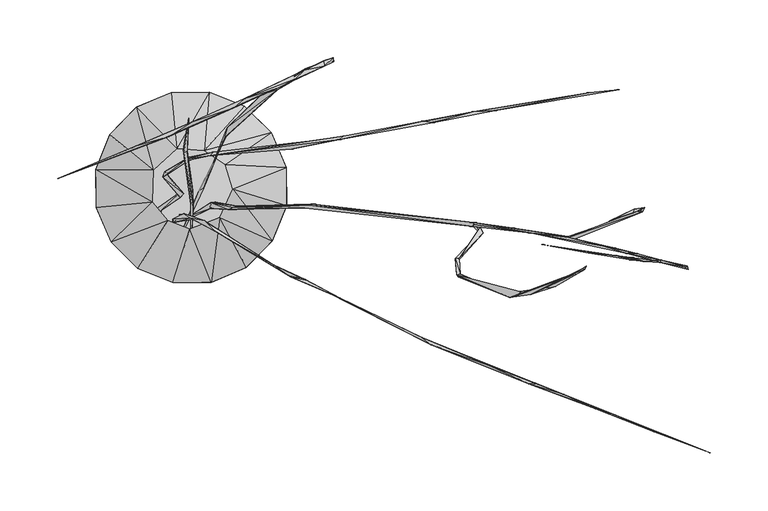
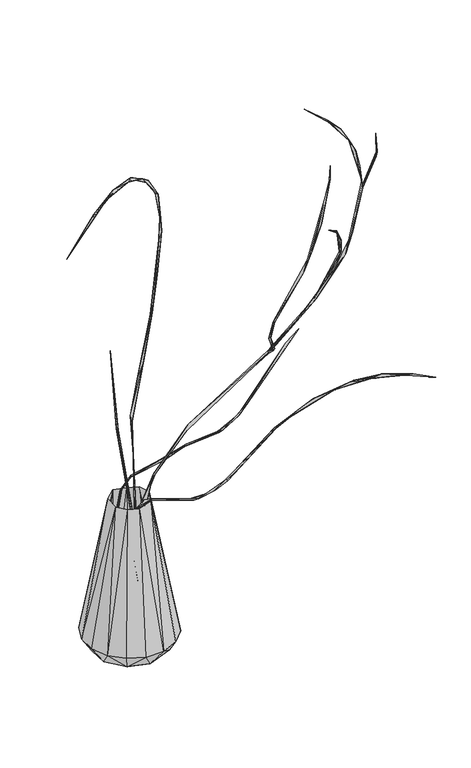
"""IFC4 building model written with IfcOpenShell, lengths in millimetres: geographic element geometry, Enscape AssetDefinition - Vase 002 Eucalyptus : Enscape AssetDefinition - Vase 002 Eucalyptus 2."""

import ifcopenshell
import ifcopenshell.guid

model = None  # the IFC model being written
_history = None  # IfcOwnerHistory: only IFC2X3 demands one
_inside = {}  # id of a spatial element -> (the spatial element, [elements in it])
_under = {}  # id of a project, library or spatial element -> (it, [spatial elements below it])
_declared = {}  # id of a project -> (the project, [libraries it declares])
_typed = {}  # id of a type object -> (the type object, [elements of that type])
_made_of = {}  # id of a material, layer set ... -> (it, [elements and type objects made of it])


def new_model(schema):
    """Start an empty IFC model of exactly this schema.

    Asked for "IFC4X3", IfcOpenShell would pick the latest addendum, in which some entities
    have other attributes; the version numbers below select the first issue.
    IFC2X3 requires an IfcOwnerHistory on every rooted entity: one is made here for all.
    """
    global model, _history
    if schema == "IFC4X3":
        model = ifcopenshell.file(schema_version=(4, 3, 0, 0))
    else:
        model = ifcopenshell.file(schema=schema)
    _inside.clear()
    _under.clear()
    _declared.clear()
    _typed.clear()
    _made_of.clear()
    _history = None
    if model.schema == "IFC2X3":
        org = make("IfcOrganization", Name="unknown")
        user = make(
            "IfcPersonAndOrganization",
            ThePerson=make("IfcPerson", FamilyName="unknown"),
            TheOrganization=org,
        )
        app = make(
            "IfcApplication",
            ApplicationDeveloper=org,
            Version="unknown",
            ApplicationFullName="unknown",
            ApplicationIdentifier="unknown",
        )
        _history = make(
            "IfcOwnerHistory",
            OwningUser=user,
            OwningApplication=app,
            ChangeAction="ADDED",
            CreationDate=0,
        )
    return model


def make(cls, **values):
    """One entity of the class cls with the attributes given. An attribute that is None is left unset."""
    return model.create_entity(
        cls, **{name: value for name, value in values.items() if value is not None}
    )


def rooted(cls, **values):
    """An entity with a GlobalId (a new one), such as an element, a storey or a relation."""
    return make(cls, GlobalId=ifcopenshell.guid.new(), OwnerHistory=_history, **values)


def si_unit(unit_type, name, prefix=None):
    """IfcSIUnit, for example si_unit("LENGTHUNIT", "METRE", prefix="MILLI")."""
    return make("IfcSIUnit", UnitType=unit_type, Prefix=prefix, Name=name)


def assignment(units):
    """IfcUnitAssignment: the units of a project."""
    return None if units is None else make("IfcUnitAssignment", Units=units)


def point(xyz):
    """IfcCartesianPoint."""
    return None if xyz is None else make("IfcCartesianPoint", Coordinates=xyz)


def direction(xyz):
    """IfcDirection."""
    return None if xyz is None else make("IfcDirection", DirectionRatios=xyz)


def frame(location, z_axis=None, x_axis=None):
    """IfcAxis2Placement3D, a coordinate frame: its origin and axes. An axis left out is left unset."""
    return make(
        "IfcAxis2Placement3D",
        Location=point(location),
        Axis=direction(z_axis),
        RefDirection=direction(x_axis),
    )


def origin():
    """The frame at (0, 0, 0) with its axes left unset."""
    return frame((0.0, 0.0, 0.0))


def place(relative_to, where):
    """IfcLocalPlacement: puts the frame where relative to a parent placement (None: the world)."""
    return make(
        "IfcLocalPlacement", PlacementRelTo=relative_to, RelativePlacement=where
    )


def context(
    kind, dimensions, precision=None, world=None, true_north=None, identifier=None
):
    """IfcGeometricRepresentationContext, for example the 3D "Model" context."""
    return make(
        "IfcGeometricRepresentationContext",
        ContextIdentifier=identifier,
        ContextType=kind,
        CoordinateSpaceDimension=dimensions,
        Precision=precision,
        WorldCoordinateSystem=world,
        TrueNorth=true_north,
    )


def project(units=None, contexts=None):
    """IfcProject with its units and contexts."""
    return rooted(
        "IfcProject",
        Name="project",
        RepresentationContexts=contexts,
        UnitsInContext=assignment(units),
    )


def spatial(cls, under=None, at=None, **own):
    """A site, building, storey or space (cls), placed at a placement, below another one or the project."""
    s = rooted(cls, ObjectPlacement=at, **own)
    if under is not None:
        _under.setdefault(under.id(), (under, []))[1].append(s)
    return s


def point_list(points):
    """IfcCartesianPointList2D or 3D."""
    cls = (
        "IfcCartesianPointList2D" if len(points[0]) == 2 else "IfcCartesianPointList3D"
    )
    return make(cls, CoordList=points)


def triangles(points, corners, closed=None, point_numbers=None):
    """IfcTriangulatedFaceSet: each triangle names its three corners, points numbered from 1."""
    return make(
        "IfcTriangulatedFaceSet",
        Coordinates=point_list(points),
        Closed=closed,
        CoordIndex=corners,
        PnIndex=point_numbers,
    )


def shape(context_of_items, identifier, shape_type, items):
    """IfcShapeRepresentation: the items that make up one representation, for example the "Body"."""
    return make(
        "IfcShapeRepresentation",
        ContextOfItems=context_of_items,
        RepresentationIdentifier=identifier,
        RepresentationType=shape_type,
        Items=items,
    )


def source(mapping_origin, context_of_items, identifier, shape_type, items):
    """IfcRepresentationMap: a shape defined once, which mapped items show again and again."""
    return make(
        "IfcRepresentationMap",
        MappingOrigin=mapping_origin,
        MappedRepresentation=shape(context_of_items, identifier, shape_type, items),
    )


def transform(
    local_origin,
    x_axis=None,
    y_axis=None,
    z_axis=None,
    scale=None,
    scale2=None,
    scale3=None,
    uniform=True,
):
    """IfcCartesianTransformationOperator3D, or its non-uniform kind. x_axis, y_axis, z_axis: its Axis1, 2, 3."""
    if uniform:
        return make(
            "IfcCartesianTransformationOperator3D",
            Axis1=direction(x_axis),
            Axis2=direction(y_axis),
            LocalOrigin=point(local_origin),
            Scale=scale,
            Axis3=direction(z_axis),
        )
    return make(
        "IfcCartesianTransformationOperator3DnonUniform",
        Axis1=direction(x_axis),
        Axis2=direction(y_axis),
        LocalOrigin=point(local_origin),
        Scale=scale,
        Axis3=direction(z_axis),
        Scale2=scale2,
        Scale3=scale3,
    )


def mapped(mapping_source, mapping_target):
    """IfcMappedItem: shows the shape of a source again, moved by a transform."""
    return make(
        "IfcMappedItem", MappingSource=mapping_source, MappingTarget=mapping_target
    )


def made_of(thing, what):
    """Note that an element or type object is made of a material, layer set ...; save() writes the relation."""
    if what is not None:
        _made_of.setdefault(what.id(), (what, []))[1].append(thing)
    return thing


def element(
    cls,
    number,
    at=None,
    inside=None,
    cuts=None,
    type_object=None,
    material=None,
    context=None,
    identifier="Body",
    shape_type=None,
    held_by="IfcProductDefinitionShape",
    body=None,
    shapes=None,
    **own,
):
    """One element of the class cls, such as IfcWall. Its Tag is "e" and its number.

    at: its placement. inside: the storey or other place that contains it. cuts: it is an
    opening in that element (IfcRelVoidsElement). A single representation is given by context,
    identifier, shape_type and body (its items); several are given by shapes. held_by: the class
    of the entity that holds the representations. save() writes the other relations.
    """
    e = rooted(cls, Tag="e%d" % number, ObjectPlacement=at, **own)
    if body is not None:
        shapes = [shape(context, identifier, shape_type, body)]
    if shapes is not None:
        e.Representation = make(held_by, Representations=shapes)
    if inside is not None:
        _inside.setdefault(inside.id(), (inside, []))[1].append(e)
    if cuts is not None:
        rooted(
            "IfcRelVoidsElement", RelatingBuildingElement=cuts, RelatedOpeningElement=e
        )
    if type_object is not None:
        _typed.setdefault(type_object.id(), (type_object, []))[1].append(e)
    return made_of(e, material)


def aggregate(whole, parts):
    """IfcRelAggregates: a whole, such as a stair, and the parts it consists of."""
    return rooted("IfcRelAggregates", RelatingObject=whole, RelatedObjects=parts)


def save(model, path):
    """Write the relations noted so far, then the file.

    IfcRelAggregates (storeys below a building ...), IfcRelContainedInSpatialStructure (elements
    in a storey), IfcRelDefinesByType, IfcRelAssociatesMaterial and IfcRelDeclares: one each for
    every whole, place, type object, material and project.
    """
    for whole, parts in _under.values():
        aggregate(whole, parts)
    for where, things in _inside.values():
        rooted(
            "IfcRelContainedInSpatialStructure",
            RelatedElements=things,
            RelatingStructure=where,
        )
    for kind, things in _typed.values():
        rooted("IfcRelDefinesByType", RelatedObjects=things, RelatingType=kind)
    for what, things in _made_of.values():
        rooted("IfcRelAssociatesMaterial", RelatedObjects=things, RelatingMaterial=what)
    for by, libraries in _declared.values():
        rooted("IfcRelDeclares", RelatingContext=by, RelatedDefinitions=libraries)
    model.write(path)


def geographic_element_e6de441b(model_context):
    return source(origin(), model_context, "Body", "Tessellation", [
        triangles([(45.9379527, 70.502201, 28.4633448), (82.3356357, 17.3695487, 28.4633244), (29.4713207, 19.692037, 293.433688), (69.4211578, 47.5558636, 28.4633244), (11.4691718, 31.81763, 290.3874531), (2.458065, 67.5167546, -0.2719074), (15.4611055, 82.7152273, 28.4633448), (-17.369434, 82.3356357, 28.4633244), (-12.6112726, 33.7478106, 293.418609), (-47.5557773, 69.4212032, 28.4633448), (-32.7808434, 14.9458389, 293.418609), (-65.2439918, 12.977912, -0.2055574), (-46.0034102, 49.4796924, -0.2719074), (-70.5021783, 45.9380208, 28.4633517), (-63.3180147, -23.5665848, -0.271925), (-33.7478629, -12.611343, 293.418609), (-82.7152273, 15.461177, 28.4633176), (-82.3356447, -17.3694964, 28.4633176), (-69.4212032, -47.5558227, 28.4633335), (-36.9577823, -55.3111815, -0.2055662), (49.5067937, 46.0286857, -0.2188257), (-15.8883834, -82.6219463, 27.978032), (-46.3444323, -70.2696162, 29.0888767), (-20.4746791, -28.691004, 293.3939738), (17.3695305, -82.3356447, 28.4633244), (-2.62e-05, -67.1548444, -0.2613593), (48.1170621, -48.1170621, -0.2874323), (-1.3988608, -36.0258488, 293.4225331), (47.5558591, -69.4211669, 28.4633062), (67.1548444, -8.7e-06, -0.2613506), (70.2696434, -46.3443823, 29.0888767), (82.6219463, -15.8883493, 27.978032), (24.7947756, -26.2062788, 293.4296003), (36.0257943, -1.3988783, 293.4225331), (71.7377224, -67.3135966, 306.3250886), (98.8175784, -79.9899849, 315.8699638), (86.3297959, -77.6303724, 308.6516544), (112.192189, -88.3435811, 322.9866443), (128.932855, -95.8627896, 343.8977589), (79.1504286, -72.6743386, 304.6508085), (2.2809597, -27.6333128, 289.753353), (19.3145755, -35.865046, 303.3832987), (-0.9242038, -26.4440572, 291.161988), (20.4029062, -37.8574685, 307.1708219), (11.4176727, -28.9996084, 303.0843344), (-6.6083357, -22.7395186, 270.699338), (-4.9927741, -44.7703323, 158.4344427), (-15.0035128, -30.7139433, 244.1057214), (-15.9705743, -27.2886414, 249.6097096), (-15.5216134, -32.9539955, 222.3621358), (-15.4739022, -39.7300195, 203.3715436), (-6.7996889, -40.7651671, 149.9167304), (-2.9482206, -41.1938382, 135.6846231), (-5.9964738, -42.8758259, 123.6874993), (-41.8122371, -26.6709125, 67.9813111), (-9.4083931, -42.5844646, 126.8220009), (-38.5623673, -28.6974648, 67.4012774), (-41.6154604, -30.6902779, 68.0678792), (-43.1207873, -24.4019603, 33.2987873), (-41.9313613, -27.631319, 46.2957207), (-45.7607606, -28.1782628, 43.1650024), (-27.177722, -33.0956021, 3.0036905), (-26.9119633, -33.1576736, 7.0318184), (201.8423491, -131.7162516, 441.8344771), (199.868814, -130.1291846, 443.7504939), (130.651382, -97.3371546, 341.4152796), (207.9020083, -136.6107203, 453.7983544), (242.3843694, -147.6501537, 479.1917899), (297.7729762, -169.7065563, 513.5859478), (259.1104197, -154.8917084, 495.7123658), (292.3058498, -170.6367321, 511.9718385), (322.995183, -179.6515161, 525.6903688), (350.6372458, -192.29424, 527.9644306), (415.0399644, -217.0166046, 529.3909424), (367.0393696, -197.3995244, 534.1071516), (449.8550995, -230.5007924, 518.2353733), (401.2805572, -212.0112778, 528.630015), (-7.0336902, 32.8470003, 414.7779164), (-2.1618773, 59.9936219, 553.632704), (-6.328277, 29.5880241, 414.1580051), (1.6956695, -16.9624491, 239.1098054), (-3.2260147, 31.4639997, 411.0857363), (-0.8654281, -66.3794921, 10.4544252), (-0.5219052, -14.4241536, 240.5016718), (1.3263273, -2.8947367, 274.5047017), (123.5801022, 108.9590742, 721.3830025), (114.9624777, 108.2441287, 636.8388897), (123.1858221, 112.3847008, 755.6445013), (118.9809824, 110.1011284, 704.4310575), (100.4156367, 99.3850946, 570.2274396), (83.1126322, 92.0409844, 500.1850216), (98.8333024, 102.9843571, 566.1327041), (31.6568727, 47.1525452, 408.3137034), (31.1431209, 51.9493, 416.2821487), (60.9131696, 80.3413987, 463.02915), (74.9444852, 84.7344264, 487.6320087), (28.5097242, 42.8717609, 407.6931018), (10.9958609, -0.8348245, 275.1705949), (18.9605682, 20.8341389, 356.2432626), (18.5535471, 20.0412345, 360.6468092), (6.6334903, -3.3823213, 265.4870653), (-17.9793032, -62.5858283, 20.9747008), (114.7842183, 109.6106242, 792.072583), (120.5487102, 109.0986641, 749.7889721), (108.8560009, 104.5332451, 805.6354179), (115.3645244, 104.8873569, 801.1429596), (98.1081286, 101.6031006, 829.8770342), (49.1420722, 78.0279226, 870.2104008), (45.870197, 76.95525, 875.2377829), (89.540383, 93.8565894, 844.1708565), (73.8288239, 85.4893222, 858.2420906), (36.6183885, 68.7282995, 874.379841), (-19.484755, 44.0675273, 872.2766991), (-48.0040466, 35.6695706, 859.2704435), (-51.0076787, 34.502393, 853.0431347), (0.4151032, 56.643899, 877.9565849), (1.2756595, 55.6880571, 873.597912), (-115.6896045, 7.3866767, 809.9565931), (231.6413296, -77.7950153, 612.6183477), (253.163944, -39.8202348, 529.5112839), (229.9785132, -75.9178815, 613.7227135), (228.7999878, -61.7598612, 571.5533761), (229.3338215, -66.0748867, 576.4140169), (250.2175758, -39.735338, 526.1779844), (250.6857522, -34.6681237, 525.2441388), (232.5029049, -61.9774624, 571.4325986), (233.0294535, -75.2686342, 613.2186745), (294.2435586, -93.2024324, 743.9566973), (315.6968639, -86.1824848, 787.7437775), (272.54065, -92.3117709, 700.1776834), (340.9091695, -69.8492339, 856.380213), (339.4978457, -70.5345755, 857.0296646), (276.0311165, -95.7068035, 709.3912926), (340.8358818, -71.5469637, 859.0347748), (342.3391694, -68.3114781, 883.5306633), (246.2155127, -32.3217803, 522.4915815), (243.4096338, -33.2957647, 518.8299228), (278.8020048, -35.3621743, 550.0088699), (244.9491838, -30.5307968, 522.6387383), (246.3244087, -32.7601415, 518.294236), (104.962534, -14.7271364, 411.3583577), (244.4844229, -34.125363, 520.8926239), (98.3495746, -17.8481588, 404.7137415), (35.9364761, -17.7479503, 341.1332474), (101.5801823, -15.2038231, 413.7883329), (32.1540171, -19.237425, 333.2218843), (40.0009377, -16.0843993, 339.423359), (20.8598368, -12.8075429, 289.0375537), (17.1370535, -13.1685764, 292.5045114), (-1.1177173, -24.8586185, 30.3626271), (16.5188046, -18.3288594, 261.0445131), (-1.9980142, -27.3458622, 17.1077357), (-10.5549823, -23.4173115, 10.3765741), (3.167615, -23.8989568, 27.177529), (245.3364784, -32.3751473, 522.005928), (294.6316526, -39.7332261, 570.6072493), (327.362976, -43.4167222, 608.6609221), (377.9291845, -57.5152893, 687.3967049), (326.5760327, -42.5720426, 606.3326849), (384.4455746, -22.9611712, 653.6699844), (388.04223, -19.9083165, 665.3625847), (390.9451415, -21.4277391, 665.7589994), (329.0968818, -46.1815834, 606.7474125), (367.166106, -52.7777106, 663.8801897), (358.1981578, -51.4418773, 654.0145128), (407.0179613, -64.0874763, 816.3716085), (390.1063482, -60.0131201, 728.633214), (406.8313811, -63.3295102, 818.3961943), (385.9992951, -57.3376157, 716.5917978), (429.8919285, -68.4809308, 871.8892954), (428.2644115, -70.3425087, 920.2675198), (430.8339131, -71.2051014, 882.3435991), (406.5781989, -65.4791155, 815.5095972), (429.3380015, -69.6070612, 882.0629477), (401.6423447, -63.6669669, 860.7768923), (404.6040098, -64.2207258, 829.887644), (380.8583662, -60.9090774, 919.7045454), (393.0557322, -64.3945705, 894.9605616), (344.5744617, -57.2134136, 967.3381931), (381.9960148, -63.0418052, 917.3254755), (367.4721193, -59.1776242, 943.5779428), (303.696252, -49.5218274, 1000.0000076), (343.6875609, -56.6173154, 965.3805365), (389.7269019, -19.4671734, 689.2827089), (382.8082835, -22.3837786, 709.1677597), (393.1983833, -17.5472063, 685.3712471), (362.1603796, -29.303889, 723.2137047), (383.7325004, -18.7741992, 707.8434219), (380.7226913, -21.470376, 707.1083651), (-20.9660327, 11.2109697, 235.5244138), (-23.0723562, 13.8153007, 236.8419569), (-1.8276786, 23.4364851, 296.1691678), (-6.4218197, -5.5601956, 144.9188342), (-24.544616, 8.8654177, 232.5580978), (-9.3431627, -4.0380112, 135.6318375), (-9.3383517, -8.63293, 128.6007169), (-29.7941207, -18.3803586, 66.858419), (-27.1567544, -20.9142803, 68.9157063), (-26.0414065, -19.8758421, 66.7328998), (-13.2082134, -8.6943554, 99.9489138), (-29.7174948, -40.1633279, 47.0020956), (-30.0205286, -43.5773319, 49.3858981), (-32.0767439, -39.3489699, 48.6569228), (-50.345796, -30.8744486, 20.975071), (-1.8455997, 26.2573385, 292.7166714), (19.5352061, 30.4978023, 313.1502534), (18.9302512, 29.0567566, 310.0621061), (87.1326539, 33.1115372, 319.0312534), (-4.2040085, 24.6279798, 295.9579162), (16.6152774, 27.4846051, 312.73251), (132.2961308, 44.6259779, 327.3690076), (203.7207592, 56.4533719, 319.7360069), (128.9478523, 43.0461234, 324.6507505), (128.2939859, 41.5185141, 327.5611834), (200.9745605, 57.4494094, 322.4136051), (209.7118906, 56.314713, 322.1247783), (244.7898366, 65.8060759, 335.8903625), (344.9485668, 82.2159845, 434.5545799), (262.900668, 66.4977625, 351.6242131), (246.0814184, 64.8818137, 333.7102266), (370.9393496, 84.7095006, 452.7821737)], [[221, 218, 219], [221, 220, 218], [220, 221, 219], [217, 218, 220], [217, 219, 218], [215, 217, 212], [220, 212, 217], [219, 217, 216], [219, 216, 220], [212, 220, 216], [215, 216, 217], [215, 211, 214], [214, 216, 215], [213, 216, 214], [215, 213, 211], [212, 213, 215], [212, 216, 213], [214, 208, 213], [210, 211, 213], [214, 210, 208], [214, 211, 210], [213, 206, 210], [206, 213, 208], [209, 210, 206], [209, 192, 210], [208, 207, 206], [207, 210, 192], [210, 207, 208], [205, 206, 207], [205, 209, 206], [207, 192, 205], [204, 202, 203], [204, 203, 201], [201, 202, 204], [199, 202, 201], [202, 199, 198], [197, 203, 202], [201, 203, 197], [197, 202, 198], [199, 201, 197], [200, 199, 197], [196, 199, 200], [198, 199, 196], [195, 197, 198], [195, 198, 196], [195, 200, 197], [196, 200, 193], [195, 193, 200], [190, 193, 195], [192, 190, 205], [191, 190, 195], [205, 190, 191], [191, 209, 205], [209, 191, 194], [194, 193, 190], [193, 194, 196], [192, 209, 194], [194, 195, 196], [191, 195, 194], [194, 190, 192], [188, 189, 187], [187, 189, 185], [187, 185, 188], [188, 185, 186], [184, 186, 185], [188, 184, 189], [185, 189, 184], [182, 183, 179], [181, 183, 182], [182, 179, 181], [179, 180, 181], [183, 180, 179], [180, 178, 181], [183, 177, 180], [177, 183, 181], [181, 178, 177], [173, 175, 178], [178, 175, 177], [176, 173, 178], [175, 176, 177], [180, 176, 178], [177, 176, 180], [176, 158, 173], [175, 173, 168], [158, 176, 168], [176, 175, 168], [172, 171, 174], [174, 173, 172], [174, 168, 173], [171, 170, 174], [173, 170, 172], [172, 170, 171], [174, 170, 168], [170, 166, 168], [166, 170, 173], [168, 169, 158], [169, 165, 158], [166, 169, 168], [173, 158, 167], [166, 167, 169], [167, 166, 173], [165, 169, 164], [167, 164, 169], [167, 158, 164], [163, 164, 158], [164, 163, 157], [165, 164, 157], [186, 184, 162], [163, 162, 157], [186, 161, 188], [161, 162, 184], [162, 161, 157], [161, 184, 188], [186, 160, 161], [162, 160, 186], [163, 160, 162], [161, 160, 157], [157, 160, 159], [160, 163, 159], [156, 158, 165], [157, 159, 156], [158, 156, 163], [165, 157, 156], [138, 163, 156], [159, 163, 138], [155, 138, 156], [156, 142, 155], [152, 153, 154], [153, 150, 154], [150, 153, 152], [151, 152, 154], [152, 151, 150], [150, 151, 149], [154, 148, 151], [150, 149, 148], [150, 148, 154], [148, 149, 147], [149, 144, 147], [151, 148, 146], [144, 149, 146], [149, 151, 146], [148, 147, 146], [146, 147, 143], [144, 145, 147], [142, 145, 143], [145, 144, 146], [145, 146, 143], [156, 139, 142], [159, 139, 156], [159, 138, 139], [142, 139, 145], [145, 141, 147], [145, 139, 141], [141, 142, 143], [147, 141, 143], [138, 140, 139], [139, 140, 141], [138, 155, 140], [137, 142, 140], [142, 141, 140], [125, 120, 140], [137, 124, 136], [136, 124, 125], [124, 137, 140], [124, 140, 120], [134, 135, 132], [132, 135, 131], [135, 134, 131], [131, 134, 129], [133, 129, 134], [133, 134, 128], [134, 132, 128], [129, 128, 131], [128, 121, 133], [131, 128, 132], [121, 128, 130], [133, 130, 129], [128, 129, 130], [127, 122, 121], [133, 127, 130], [130, 127, 121], [127, 126, 122], [124, 122, 126], [126, 120, 125], [125, 124, 126], [124, 123, 122], [126, 123, 120], [121, 122, 123], [123, 124, 120], [119, 126, 127], [119, 123, 126], [133, 119, 127], [121, 123, 119], [119, 133, 121], [115, 118, 114], [118, 115, 113], [118, 113, 114], [113, 115, 117], [114, 116, 115], [115, 116, 117], [113, 116, 114], [112, 113, 117], [112, 116, 113], [117, 108, 112], [108, 117, 116], [116, 109, 108], [112, 109, 116], [112, 108, 111], [110, 109, 111], [112, 111, 109], [108, 109, 107], [107, 111, 108], [109, 110, 107], [111, 107, 105], [106, 107, 110], [106, 110, 111], [106, 111, 105], [106, 105, 104], [105, 107, 103], [106, 103, 107], [104, 105, 103], [103, 88, 104], [106, 88, 103], [102, 98, 101], [100, 101, 98], [98, 102, 99], [99, 102, 101], [99, 101, 100], [98, 97, 100], [97, 98, 99], [97, 94, 100], [93, 100, 94], [93, 97, 99], [93, 99, 100], [96, 97, 93], [94, 97, 96], [94, 95, 93], [95, 94, 96], [93, 95, 91], [96, 93, 91], [92, 91, 95], [91, 90, 96], [90, 95, 96], [92, 95, 90], [87, 90, 91], [87, 91, 92], [104, 88, 89], [88, 87, 89], [87, 92, 89], [92, 90, 89], [106, 86, 88], [104, 89, 86], [86, 106, 104], [89, 90, 86], [90, 87, 86], [86, 87, 88], [85, 83, 84], [83, 81, 84], [83, 85, 81], [82, 85, 84], [82, 81, 85], [82, 84, 78], [80, 78, 84], [81, 80, 84], [82, 80, 81], [79, 78, 80], [79, 82, 78], [79, 80, 82], [76, 74, 77], [75, 74, 76], [76, 77, 75], [73, 74, 75], [73, 77, 74], [77, 73, 72], [77, 72, 75], [69, 72, 73], [70, 72, 69], [71, 75, 72], [71, 73, 75], [73, 71, 69], [72, 70, 71], [69, 68, 70], [71, 68, 69], [65, 70, 68], [67, 68, 71], [70, 65, 67], [71, 70, 67], [64, 65, 68], [67, 64, 68], [64, 67, 66], [64, 39, 65], [64, 66, 39], [65, 39, 67], [38, 66, 67], [38, 67, 39], [63, 62, 59], [63, 59, 60], [61, 62, 63], [61, 63, 60], [59, 62, 61], [61, 60, 58], [57, 58, 60], [60, 55, 57], [59, 55, 60], [55, 59, 61], [61, 58, 55], [56, 55, 58], [57, 54, 58], [58, 54, 56], [55, 53, 57], [53, 55, 56], [57, 53, 54], [53, 56, 52], [50, 53, 52], [56, 54, 47], [50, 47, 53], [56, 47, 52], [53, 47, 54], [50, 52, 51], [51, 52, 47], [49, 50, 51], [50, 49, 46], [51, 48, 49], [48, 47, 50], [48, 50, 46], [51, 47, 48], [44, 45, 43], [48, 43, 49], [46, 43, 45], [49, 43, 46], [46, 45, 41], [48, 46, 41], [43, 48, 41], [43, 41, 44], [41, 45, 42], [41, 42, 44], [40, 44, 42], [40, 42, 45], [36, 66, 38], [38, 40, 36], [66, 36, 39], [40, 37, 44], [37, 38, 39], [40, 38, 37], [39, 36, 37], [35, 36, 40], [45, 35, 40], [44, 35, 45], [35, 37, 36], [35, 44, 37], [3, 34, 2], [34, 33, 31], [33, 29, 31], [34, 32, 2], [34, 31, 32], [32, 30, 2], [2, 30, 21], [32, 31, 27], [30, 27, 21], [29, 27, 31], [32, 27, 30], [33, 28, 25], [33, 25, 29], [25, 27, 29], [25, 26, 27], [27, 26, 21], [28, 22, 25], [22, 26, 25], [28, 24, 23], [28, 23, 22], [22, 23, 20], [26, 20, 21], [22, 20, 26], [24, 19, 23], [19, 20, 23], [24, 16, 19], [16, 18, 19], [19, 15, 20], [20, 15, 21], [18, 15, 19], [15, 12, 21], [17, 12, 15], [16, 17, 18], [17, 15, 18], [16, 11, 17], [11, 14, 17], [14, 12, 17], [14, 13, 12], [12, 13, 21], [11, 10, 14], [10, 13, 14], [11, 9, 10], [9, 8, 10], [8, 13, 10], [8, 6, 13], [13, 6, 21], [7, 6, 8], [9, 7, 8], [5, 7, 9], [5, 1, 7], [1, 21, 6], [1, 6, 7], [5, 3, 4], [5, 4, 1], [3, 2, 4], [2, 21, 4], [4, 21, 1]], closed=False),
    ])


if __name__ == "__main__":
    model = new_model("IFC4")
    model_context = context("Model", 3, world=origin())
    ifc_project = project(units=[si_unit("LENGTHUNIT", "METRE", prefix="MILLI")], contexts=[model_context])
    site = spatial("IfcSite", under=ifc_project)
    building = spatial("IfcBuilding", under=site)
    placement = place(None, origin())
    geographic_element_shape = geographic_element_e6de441b(model_context)
    element("IfcGeographicElement", 1, ObjectType="Enscape AssetDefinition - Vase 002 Eucalyptus : Enscape AssetDefinition - Vase 002 Eucalyptus 2", at=placement, inside=building, context=model_context, shape_type="MappedRepresentation", body=[
        mapped(geographic_element_shape, transform((0.0, 0.0, 0.0), x_axis=(1.0, 0.0, 0.0), y_axis=(0.0, 1.0, 0.0), z_axis=(0.0, 0.0, 1.0))),
    ])
    save(model, "model.ifc")
